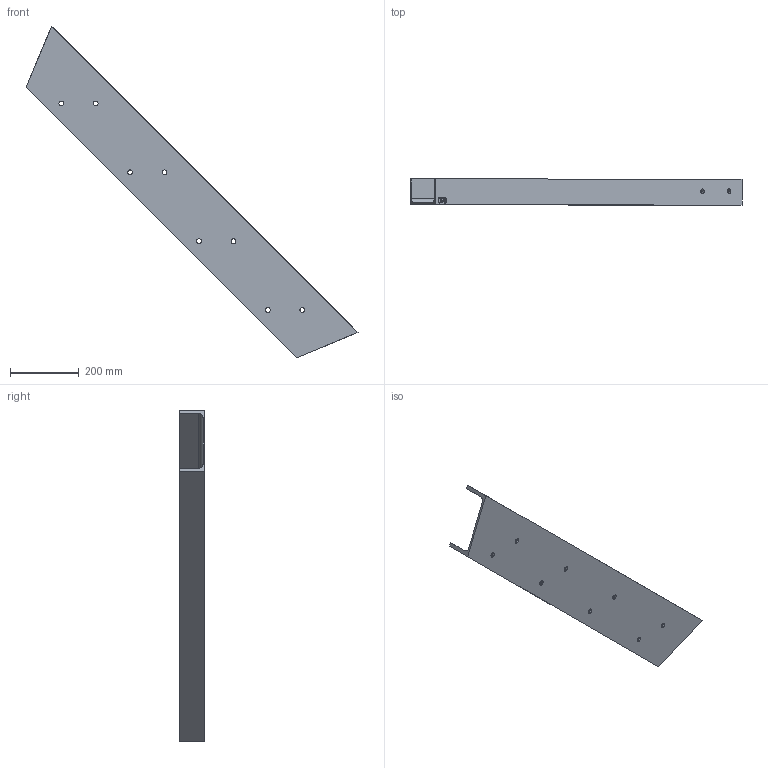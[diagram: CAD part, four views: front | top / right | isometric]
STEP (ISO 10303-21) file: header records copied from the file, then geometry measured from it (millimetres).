
FILE_DESCRIPTION (( 'STEP AP214' ), '1' );
FILE_NAME ('CCJ029-REP.050 - MONTANT ESCALIER SUPERIEUR DOUBLE 2.STEP', '2024-01-31T09:09:54', ( '' ), ( '' ), 'SwSTEP 2.0', 'SolidWorks 2021', '' );
FILE_SCHEMA (( 'AUTOMOTIVE_DESIGN' ));
Length unit declared in the file: millimetre
Products named in the file (1): CCJ029-REP.050 - MONTANT ESCALIER SUPERIEUR DOUBLE 2
Bounding box: 964.56 x 75 x 964.56 mm (x, y, z)
Volume: 2963505.7 mm3; surface area: 761603.3 mm2
Topology: 1 solids, 1 shells, 69 faces, 186 edges, 124 vertices
Faces by surface type: bspline 26, cylinder 22, plane 21
Entity records: 4142 total; most frequent: CARTESIAN_POINT 2482, ORIENTED_EDGE 372, DIRECTION 258, EDGE_CURVE 186, VERTEX_POINT 124, EDGE_LOOP 94, LINE 90, VECTOR 90
